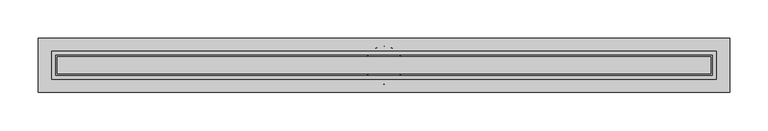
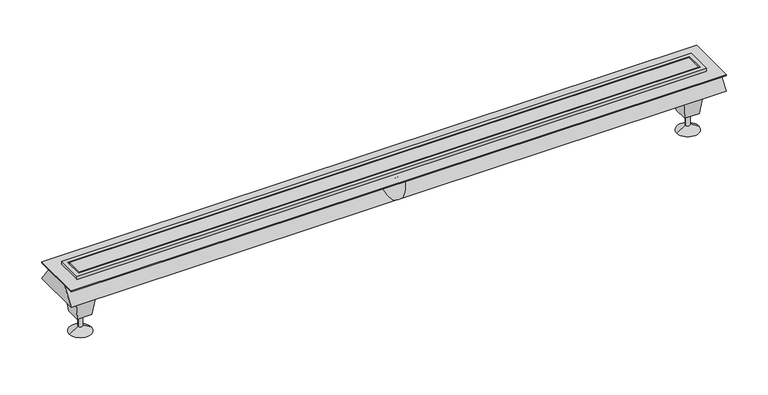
"""IFC4 building model written with IfcOpenShell, lengths in millimetres: sanitary terminal geometry, NLRS_PF_52_UN_XS Z1 Complete Set_Easydrain : XS-Z1 Brushed with M2 vertical outlet."""

from ifc_helpers import new_model, si_unit, frame, origin, place, context, project, spatial, polyline, circle_curve, outline, extrude, faceted_brep, source, transform, mapped, element, save
from ifc_brep_helpers import plane_surface, cylinder_surface, revolved_surface, advanced_brep


def sanitary_terminal_2b42c3a1(model_context):
    return source(origin(), model_context, "Body", "SolidModel", [
        advanced_brep(
        [(420.5, 0.0, -69.0), (414.5, 0.0, -69.0), (417.5, 0.0, -69.0), (420.5, 0.0, -87.5), (414.5, 0.0, -87.5), (432.5, 0.0, -95.0), (402.5, 0.0, -95.0), (417.5, 0.0, -95.0)],
        [
            (0, 1, circle_curve(frame((417.5, 0.0, -69.0), z_axis=(0.0, 0.0, 1.0), x_axis=(-1.0, 0.0, 0.0)), 3.0)),
            (1, 2),
            (2, 0),
            (1, 0, circle_curve(frame((417.5, 0.0, -69.0), z_axis=(0.0, 0.0, 1.0), x_axis=(-1.0, 0.0, 0.0)), 3.0)),
            (3, 4, circle_curve(frame((417.5, 0.0, -87.5), z_axis=(0.0, 0.0, 1.0), x_axis=(-1.0, 0.0, 0.0)), 3.0)),
            (4, 1),
            (0, 3),
            (4, 3, circle_curve(frame((417.5, 0.0, -87.5), z_axis=(0.0, 0.0, 1.0), x_axis=(-1.0, 0.0, 0.0)), 3.0)),
            (5, 6, circle_curve(frame((417.5, 0.0, -95.0), z_axis=(0.0, 0.0, 1.0), x_axis=(-1.0, 0.0, 0.0)), 15.0)),
            (6, 4),
            (3, 5),
            (6, 5, circle_curve(frame((417.5, 0.0, -95.0), z_axis=(0.0, 0.0, 1.0), x_axis=(-1.0, 0.0, 0.0)), 15.0)),
            (7, 6),
            (5, 7),
        ],
        [
            plane_surface(frame((417.5, 0.0, -69.0), z_axis=(0.0, 0.0, 1.0), x_axis=(-1.0, 0.0, 0.0))),
            cylinder_surface(frame((417.5, 0.0, -103.1782032), z_axis=(0.0, 0.0, -1.0), x_axis=(-1.0, 0.0, 0.0)), 3.0),
            revolved_surface(polyline([(414.5, 0.0, -87.5), (402.5, 0.0, -95.0)]), (417.5, 0.0, -103.1782032), (0.0, 0.0, -1.0)),
            plane_surface(frame((417.5, 0.0, -95.0), z_axis=(0.0, 0.0, -1.0), x_axis=(-1.0, 0.0, 0.0))),
        ],
        [
            (0, [[1, 2, 3]]),
            (0, [[4, -3, -2]]),
            (1, [[5, 6, -1, 7]]),
            (1, [[8, -7, -4, -6]]),
            (2, [[9, 10, -5, 11]]),
            (2, [[12, -11, -8, -10]]),
            (3, [[13, -9, 14]]),
            (3, [[-14, -12, -13]]),
        ],
    ),
        faceted_brep([(407.5, 10.0, -69.0), (427.5, 10.0, -69.0), (427.5, -10.0, -69.0), (407.5, -10.0, -69.0), (402.5, 15.0, -29.0), (402.5, -15.0, -29.0), (432.5, -15.0, -29.0), (432.5, 15.0, -29.0)], [[[0, 1, 2, 3]], [[4, 5, 6, 7]], [[5, 4, 0, 3]], [[6, 5, 3, 2]], [[7, 6, 2, 1]], [[4, 7, 1, 0]]]),
        advanced_brep(
        [(-414.5, 0.0, -69.0), (-420.5, 0.0, -69.0), (-417.5, 0.0, -69.0), (-414.5, 0.0, -87.5), (-420.5, 0.0, -87.5), (-402.5, 0.0, -95.0), (-432.5, 0.0, -95.0), (-417.5, 0.0, -95.0)],
        [
            (0, 1, circle_curve(frame((-417.5, 0.0, -69.0), z_axis=(0.0, 0.0, 1.0), x_axis=(-1.0, 0.0, 0.0)), 3.0)),
            (1, 2),
            (2, 0),
            (1, 0, circle_curve(frame((-417.5, 0.0, -69.0), z_axis=(0.0, 0.0, 1.0), x_axis=(-1.0, 0.0, 0.0)), 3.0)),
            (3, 4, circle_curve(frame((-417.5, 0.0, -87.5), z_axis=(0.0, 0.0, 1.0), x_axis=(-1.0, 0.0, 0.0)), 3.0)),
            (4, 1),
            (0, 3),
            (4, 3, circle_curve(frame((-417.5, 0.0, -87.5), z_axis=(0.0, 0.0, 1.0), x_axis=(-1.0, 0.0, 0.0)), 3.0)),
            (5, 6, circle_curve(frame((-417.5, 0.0, -95.0), z_axis=(0.0, 0.0, 1.0), x_axis=(-1.0, 0.0, 0.0)), 15.0)),
            (6, 4),
            (3, 5),
            (6, 5, circle_curve(frame((-417.5, 0.0, -95.0), z_axis=(0.0, 0.0, 1.0), x_axis=(-1.0, 0.0, 0.0)), 15.0)),
            (7, 6),
            (5, 7),
        ],
        [
            plane_surface(frame((-417.5, 0.0, -69.0), z_axis=(0.0, 0.0, 1.0), x_axis=(-1.0, 0.0, 0.0))),
            cylinder_surface(frame((-417.5, 0.0, -103.1782032), z_axis=(0.0, 0.0, -1.0), x_axis=(-1.0, 0.0, 0.0)), 3.0),
            revolved_surface(polyline([(-420.5, 0.0, -87.5), (-432.5, 0.0, -95.0)]), (-417.5, 0.0, -103.1782032), (0.0, 0.0, -1.0)),
            plane_surface(frame((-417.5, 0.0, -95.0), z_axis=(0.0, 0.0, -1.0), x_axis=(-1.0, 0.0, 0.0))),
        ],
        [
            (0, [[1, 2, 3]]),
            (0, [[4, -3, -2]]),
            (1, [[5, 6, -1, 7]]),
            (1, [[8, -7, -4, -6]]),
            (2, [[9, 10, -5, 11]]),
            (2, [[12, -11, -8, -10]]),
            (3, [[13, -9, 14]]),
            (3, [[-14, -12, -13]]),
        ],
    ),
        faceted_brep([(-427.5, 10.0, -69.0), (-407.5, 10.0, -69.0), (-407.5, -10.0, -69.0), (-427.5, -10.0, -69.0), (-432.5, 15.0, -29.0), (-432.5, -15.0, -29.0), (-402.5, -15.0, -29.0), (-402.5, 15.0, -29.0)], [[[0, 1, 2, 3]], [[4, 5, 6, 7]], [[5, 4, 0, 3]], [[6, 5, 3, 2]], [[7, 6, 2, 1]], [[4, 7, 1, 0]]]),
        extrude(outline(polyline([(450.0, 35.0), (450.0, -35.0), (-450.0, -35.0), (-450.0, 35.0), (450.0, 35.0)])), frame((0.0, 0.0, -6.4659054), z_axis=(0.0, 0.0, 1.0), x_axis=(1.0, 0.0, 0.0)), (0.0, 0.0, 1.0), 1.4659054),
        advanced_brep(
        [(-35.0, 0.0, -29.0), (35.0, 0.0, -29.0), (-25.0, 0.0, -5.0), (25.0, 0.0, -5.0)],
        [
            (0, 1, circle_curve(frame((0.0, 0.0, -29.0), z_axis=(0.0, 0.0, -1.0), x_axis=(-1.0, 0.0, 0.0)), 35.0)),
            (1, 0, circle_curve(frame((0.0, 0.0, -29.0), z_axis=(0.0, 0.0, -1.0), x_axis=(1.0, 0.0, 0.0)), 35.0)),
            (2, 3, circle_curve(frame((0.0, 0.0, -5.0), z_axis=(0.0, 0.0, 1.0), x_axis=(1.0, 0.0, 0.0)), 25.0)),
            (3, 2, circle_curve(frame((0.0, 0.0, -5.0), z_axis=(0.0, 0.0, 1.0), x_axis=(-1.0, 0.0, 0.0)), 25.0)),
            (2, 0),
            (1, 3),
        ],
        [
            plane_surface(frame((0.0, 0.0, -29.0), z_axis=(0.0, 0.0, -1.0), x_axis=(0.0, -1.0, 0.0))),
            plane_surface(frame((0.0, 0.0, -5.0), z_axis=(0.0, 0.0, 1.0), x_axis=(0.0, -1.0, 0.0))),
            revolved_surface(polyline([(-25.0, 0.0, -5.0), (-35.0, 0.0, -29.0)]), (0.0, 0.0, 55.0), (0.0, 0.0, -1.0)),
            revolved_surface(polyline([(25.0, 0.0, -5.0), (35.0, 0.0, -29.0)]), (0.0, 0.0, 55.0), (0.0, 0.0, -1.0)),
        ],
        [
            (0, [[1, 2]]),
            (1, [[3, 4]]),
            (2, [[-3, 5, -2, 6]]),
            (3, [[-4, -6, -1, -5]]),
        ],
    ),
        extrude(outline(polyline([(-18.0, -5.0), (18.0, -5.0), (35.0, -29.0), (-35.0, -29.0), (-18.0, -5.0)])), frame((-450.0, 0.0, 0.0), z_axis=(1.0, 0.0, 0.0), x_axis=(0.0, 1.0, 0.0)), (0.0, 0.0, 1.0), 900.0),
        extrude(outline(polyline([(432.5, 18.0), (432.5, -18.0), (-432.5, -18.0), (-432.5, 18.0), (432.5, 18.0)]), holes=[polyline([(427.5, 13.0), (-427.5, 13.0), (-427.5, -13.0), (427.5, -13.0), (427.5, 13.0)])]), frame((0.0, 0.0, -5.0), z_axis=(0.0, 0.0, 1.0), x_axis=(1.0, 0.0, 0.0)), (0.0, 0.0, 1.0), 5.0),
        extrude(outline(polyline([(425.5, 11.0), (425.5, -11.0), (-425.5, -11.0), (-425.5, 11.0), (425.5, 11.0)])), frame((0.0, 0.0, -5.0), z_axis=(0.0, 0.0, 1.0), x_axis=(1.0, 0.0, 0.0)), (0.0, 0.0, 1.0), 5.0),
    ])


if __name__ == "__main__":
    model = new_model("IFC4")
    model_context = context("Model", 3, world=origin())
    ifc_project = project(units=[si_unit("LENGTHUNIT", "METRE", prefix="MILLI")], contexts=[model_context])
    site = spatial("IfcSite", under=ifc_project)
    building = spatial("IfcBuilding", under=site)
    placement = place(None, origin())
    sanitary_terminal_shape = sanitary_terminal_2b42c3a1(model_context)
    element("IfcSanitaryTerminal", 1, ObjectType="NLRS_PF_52_UN_XS Z1 Complete Set_Easydrain : XS-Z1 Brushed with M2 vertical outlet", at=placement, inside=building, context=model_context, shape_type="MappedRepresentation", body=[
        mapped(sanitary_terminal_shape, transform((0.0, 0.0, 0.0), x_axis=(1.0, 0.0, 0.0), y_axis=(0.0, 1.0, 0.0), z_axis=(0.0, 0.0, 1.0))),
    ])
    save(model, "model.ifc")
